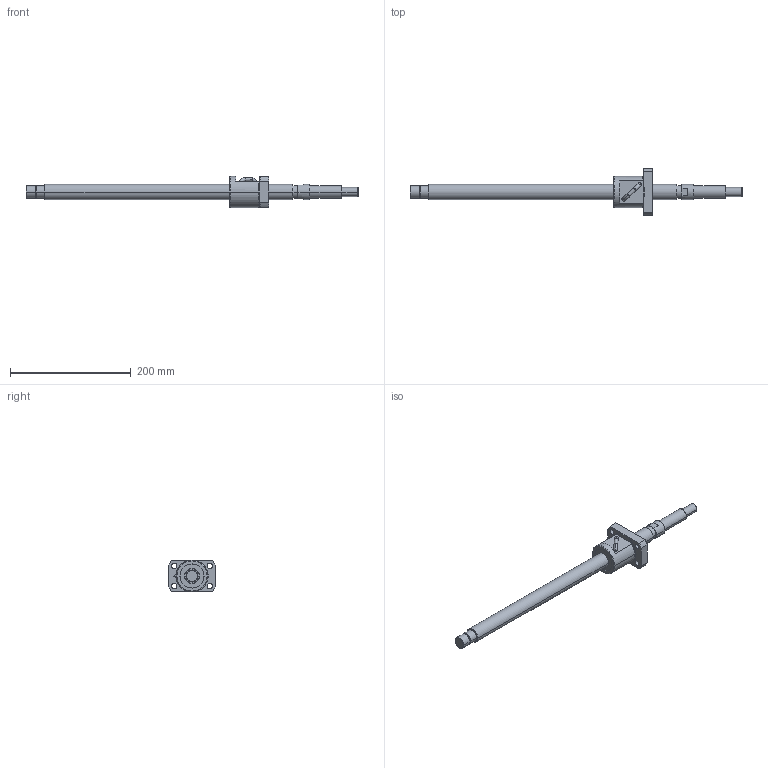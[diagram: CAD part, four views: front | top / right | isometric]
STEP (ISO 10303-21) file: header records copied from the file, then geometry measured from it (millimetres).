
FILE_DESCRIPTION (( 'STEP AP214' ), '1' );
FILE_NAME ('BS2510A-3D.STEP', '2014-03-05T14:53:43', ( '' ), ( '' ), 'SwSTEP 2.0', 'SolidWorks 2012', '' );
FILE_SCHEMA (( 'AUTOMOTIVE_DESIGN' ));
Length unit declared in the file: millimetre
Products named in the file (3): BS2510Aナット; BS2510AŽ²; BS2510A-3D
Assembly tree (2 placements, depth 2):
  BS2510A-3D
    BS2510AŽ²
    BS2510Aナット
Bounding box: 551 x 78 x 52 mm (x, y, z)
Volume: 358829.2 mm3; surface area: 71082.4 mm2
Topology: 2 solids, 2 shells, 154 faces, 396 edges, 256 vertices
Faces by surface type: cylinder 72, plane 42, cone 34, torus 4, bspline 2
Entity records: 6014 total; most frequent: CARTESIAN_POINT 2010, DIRECTION 824, ORIENTED_EDGE 788, EDGE_CURVE 394, AXIS2_PLACEMENT_3D 342, VERTEX_POINT 256, EDGE_LOOP 186, CIRCLE 185
